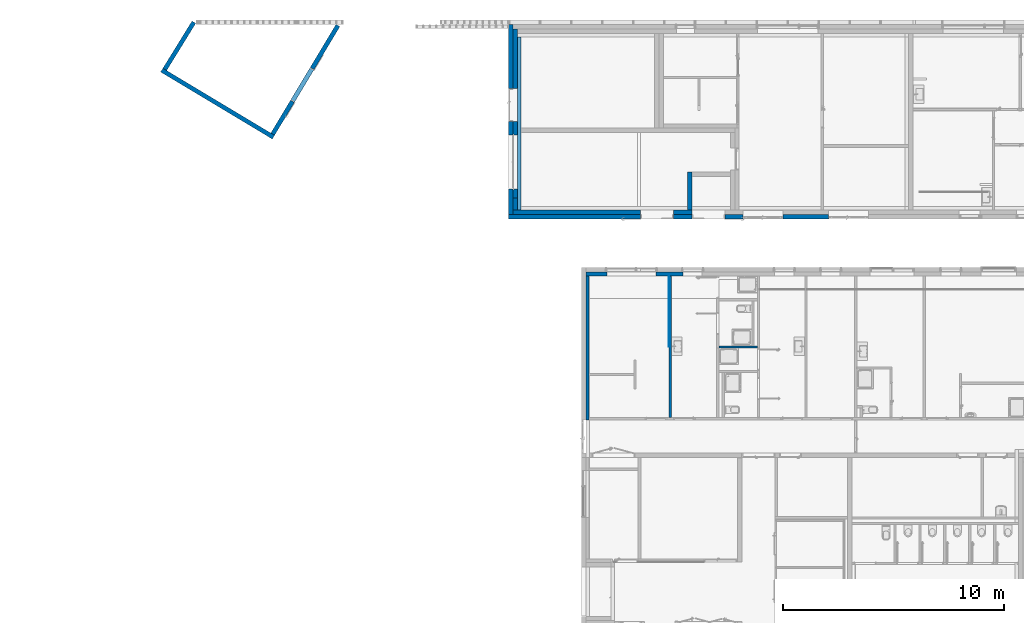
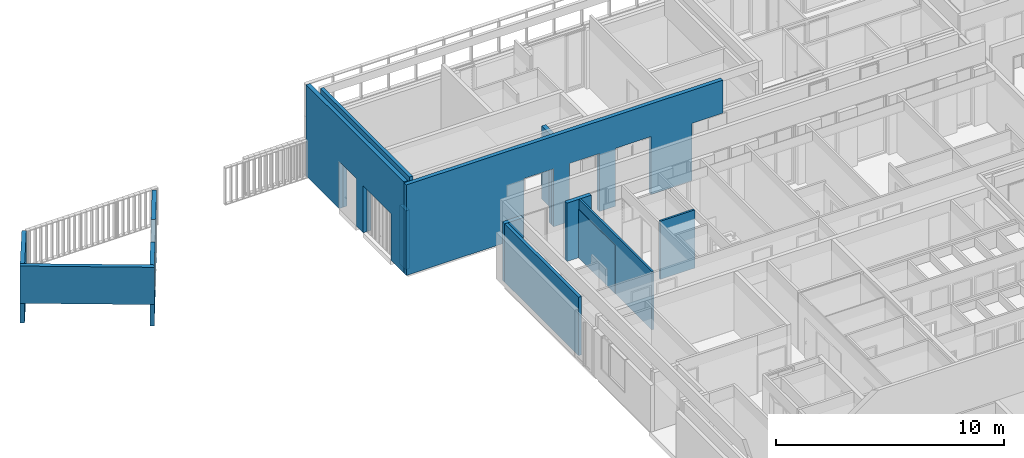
# One storey, part 110 of 240: 16 walls, 29 openings.
"""IFC2X3 building model written with IfcOpenShell, lengths in centimetres."""

from ifc_helpers import new_model, entity, si_unit, converted_unit, derived_unit, direction, frame, frame_2d, origin, origin_2d_with_axis, place, context, subcontext, project, spatial, polyline, rectangle, outline, extrude, clip, bounded_halfspace, faceted_brep, material, layer, layer_set, layer_usage, type_object, element, save


model = new_model("IFC2X3")

# Units and contexts
model_context = context("Model", 3, precision=0.001, world=origin(), true_north=direction((6.12303176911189e-17, 1.0)))
body_context = subcontext(model_context, "Body", "Model", "MODEL_VIEW")
ifc_project = project(units=[si_unit("LENGTHUNIT", "METRE", prefix="CENTI"), si_unit("AREAUNIT", "SQUARE_METRE"), si_unit("VOLUMEUNIT", "CUBIC_METRE"), converted_unit("PLANEANGLEUNIT", "DEGREE", entity("IfcRatioMeasure", 0.0174532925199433), si_unit("PLANEANGLEUNIT", "RADIAN"), dimensions=[0, 0, 0, 0, 0, 0, 0]), si_unit("MASSUNIT", "GRAM", prefix="KILO"), derived_unit("MASSDENSITYUNIT", [(si_unit("MASSUNIT", "GRAM", prefix="KILO"), 1), (si_unit("LENGTHUNIT", "METRE"), -3)]), si_unit("TIMEUNIT", "SECOND"), si_unit("FREQUENCYUNIT", "HERTZ"), si_unit("THERMODYNAMICTEMPERATUREUNIT", "DEGREE_CELSIUS"), derived_unit("THERMALTRANSMITTANCEUNIT", [(si_unit("MASSUNIT", "GRAM", prefix="KILO"), 1), (si_unit("THERMODYNAMICTEMPERATUREUNIT", "KELVIN"), -1), (si_unit("TIMEUNIT", "SECOND"), -3)]), derived_unit("VOLUMETRICFLOWRATEUNIT", [(si_unit("LENGTHUNIT", "METRE"), 3), (si_unit("TIMEUNIT", "SECOND"), -1)]), si_unit("ELECTRICCURRENTUNIT", "AMPERE"), si_unit("ELECTRICVOLTAGEUNIT", "VOLT"), si_unit("POWERUNIT", "WATT"), si_unit("FORCEUNIT", "NEWTON", prefix="KILO"), si_unit("ILLUMINANCEUNIT", "LUX"), si_unit("LUMINOUSFLUXUNIT", "LUMEN"), si_unit("LUMINOUSINTENSITYUNIT", "CANDELA"), derived_unit("USERDEFINED", [(si_unit("MASSUNIT", "GRAM", prefix="KILO"), -1), (si_unit("LENGTHUNIT", "METRE"), -2), (si_unit("TIMEUNIT", "SECOND"), 3), (si_unit("LUMINOUSFLUXUNIT", "LUMEN"), 1)]), derived_unit("LINEARVELOCITYUNIT", [(si_unit("LENGTHUNIT", "METRE"), 1), (si_unit("TIMEUNIT", "SECOND"), -1)]), si_unit("PRESSUREUNIT", "PASCAL"), derived_unit("USERDEFINED", [(si_unit("LENGTHUNIT", "METRE"), -2), (si_unit("MASSUNIT", "GRAM", prefix="KILO"), 1), (si_unit("TIMEUNIT", "SECOND"), -2)])], contexts=[model_context])

# Site, building, storey
site_placement = place(None, frame((-2781.94577612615, 7442.24238424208, 0.0)))
site = spatial("IfcSite", under=ifc_project, at=site_placement, Name="Default", CompositionType="ELEMENT")
building_placement = place(site_placement, origin())
building = spatial("IfcBuilding", under=site, at=building_placement, CompositionType="ELEMENT")
storey_placement = place(building_placement, origin())
storey = spatial("IfcBuildingStorey", under=building, at=storey_placement, Name="N00 - COO", CompositionType="ELEMENT", Elevation=0.0)

# Wall, openings
ifc_material_1 = material(Name="Aluminium bardage")
ifc_layer_1 = layer(ifc_material_1, 0.5)
ifc_material_2 = material(Name="01 - Lame d'air")
ifc_layer_2 = layer(ifc_material_2, 1.5)
ifc_material_3 = material(Name="00 - Isolant")
ifc_layer_3 = layer(ifc_material_3, 18.0)
ifc_layer_set_1 = layer_set([ifc_layer_1, ifc_layer_2, ifc_layer_3], Name="Mur de base:04 - Parement - ITE 18cm + vide 2cm")
ifc_layer_usage_1 = layer_usage(ifc_layer_set_1, "AXIS2", "POSITIVE", -10.0)
wall_type_1 = type_object("IfcWallType", Name="Mur de base:04 - Parement - ITE 18cm + vide 2cm", PredefinedType="STANDARD", material=ifc_layer_set_1)
wall_1_placement = place(building_placement, frame((-11230.6616968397, -840.048500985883, 0.0)))
wall_1 = element("IfcWallStandardCase", 1, at=wall_1_placement, inside=storey, type_object=wall_type_1, material=ifc_layer_usage_1, Name="Mur de base:04 - Parement - ITE 18cm + vide 2cm", ObjectType="Mur de base:04 - Parement - ITE 18cm + vide 2cm", context=body_context, shape_type="SweptSolid", body=[
    extrude(rectangle(XDim=1606.16181917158, YDim=20.0, at=frame_2d((803.080909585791, 2.04281036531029e-14), x_axis=(-1.0, 0.0))), origin(), (0.0, 0.0, 1.0), 486.0),
])
opening_1_placement = place(wall_1_placement, origin())
element("IfcOpeningElement", 2, at=opening_1_placement, cuts=wall_1, Name="Mur de base:04 - Parement - ITE 18cm + vide 2cm", ObjectType="Opening", context=body_context, shape_type="SweptSolid", body=[
    extrude(rectangle(XDim=310.999999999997, YDim=99.9999999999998, at=frame_2d((-8.66862137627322e-13, 0.0), x_axis=(0.0, 1.0))), frame((2089.66181923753, -25.24, 155.499999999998), z_axis=(0.0, 1.0, 0.0), x_axis=(-1.0, 0.0, 0.0)), (0.0, 0.0, 1.0), 50.48),
])
opening_2_placement = place(wall_1_placement, origin())
element("IfcOpeningElement", 3, at=opening_2_placement, cuts=wall_1, Name="Mur de base:04 - Parement - ITE 18cm + vide 2cm", ObjectType="Opening", context=body_context, shape_type="SweptSolid", body=[
    extrude(rectangle(XDim=224.0, YDim=91.9999999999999, at=frame_2d((2.1316282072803e-14, 0.0), x_axis=(1.0, 0.0))), frame((2591.66181917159, -142.4, 197.700000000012), z_axis=(0.0, 1.0, 0.0), x_axis=(0.0, 0.0, 1.0)), (0.0, 0.0, 1.0), 304.8),
])
opening_3_placement = place(wall_1_placement, origin())
element("IfcOpeningElement", 4, at=opening_3_placement, cuts=wall_1, Name="Mur de base:04 - Parement - ITE 18cm + vide 2cm", ObjectType="Opening", context=body_context, shape_type="SweptSolid", body=[
    extrude(rectangle(XDim=316.500000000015, YDim=99.9999999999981, at=frame_2d((0.0, 0.0), x_axis=(0.0, 1.0))), frame((2591.7151206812, -25.2399999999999, 158.250000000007), z_axis=(0.0, 1.0, 0.0), x_axis=(-1.0, 0.0, 0.0)), (0.0, 0.0, 1.0), 50.48),
])
opening_4_placement = place(wall_1_placement, origin())
element("IfcOpeningElement", 5, at=opening_4_placement, cuts=wall_1, Name="Mur de base:04 - Parement - ITE 18cm + vide 2cm", ObjectType="Opening", context=body_context, shape_type="SweptSolid", body=[
    extrude(rectangle(XDim=310.999999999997, YDim=99.9999999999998, at=frame_2d((-8.66862137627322e-13, 0.0), x_axis=(0.0, 1.0))), frame((2348.66181917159, -25.2400000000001, 155.499999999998), z_axis=(0.0, 1.0, 0.0), x_axis=(-1.0, 0.0, 0.0)), (0.0, 0.0, 1.0), 50.48),
])
opening_5_placement = place(wall_1_placement, origin())
element("IfcOpeningElement", 6, at=opening_5_placement, cuts=wall_1, Name="Mur de base:04 - Parement - ITE 18cm + vide 2cm", ObjectType="Opening", context=body_context, shape_type="SweptSolid", body=[
    extrude(rectangle(XDim=224.0, YDim=91.9999999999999, at=frame_2d((-7.105427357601e-15, 0.0), x_axis=(1.0, 0.0))), frame((2348.60851766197, -142.4, 192.0), z_axis=(0.0, 1.0, 0.0), x_axis=(0.0, 0.0, 1.0)), (0.0, 0.0, 1.0), 304.8),
])
opening_6_placement = place(wall_1_placement, origin())
element("IfcOpeningElement", 7, at=opening_6_placement, cuts=wall_1, Name="Mur de base:04 - Parement - ITE 18cm + vide 2cm", ObjectType="Opening", context=body_context, shape_type="SweptSolid", body=[
    extrude(rectangle(XDim=224.0, YDim=91.9999999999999, at=frame_2d((-7.105427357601e-15, 0.0), x_axis=(1.0, 0.0))), frame((2089.60851772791, -142.4, 192.0), z_axis=(0.0, 1.0, 0.0), x_axis=(0.0, 0.0, 1.0)), (0.0, 0.0, 1.0), 304.8),
])
opening_7_placement = place(wall_1_placement, frame((747.161819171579, 10.0, 0.0)))
element("IfcOpeningElement", 8, at=opening_7_placement, cuts=wall_1, Name="Int. Tierce:PP (1.80m x 3.11m):1", ObjectType="Opening", context=body_context, shape_type="SweptSolid", body=[
    extrude(rectangle(XDim=311.000000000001, YDim=151.0, at=frame_2d((155.500000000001, 75.5000000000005), x_axis=(1.0, 0.0))), frame((0.0, 0.0, 0.0), z_axis=(0.0, -1.0, 0.0), x_axis=(0.0, 0.0, 1.0)), (0.0, 0.0, 1.0), 20.0),
])
opening_8_placement = place(wall_1_placement, frame((11230.6616968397, 840.048500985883, 0.0)))
element("IfcOpeningElement", 9, at=opening_8_placement, cuts=wall_1, Name="Mur de base:04 - Parement - ITE 18cm + vide 2cm", ObjectType="Opening", context=body_context, shape_type="SweptSolid", body=[
    extrude(rectangle(XDim=326.0, YDim=179.999999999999, at=frame_2d((0.0, 8.66862137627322e-13), x_axis=(1.0, 0.0))), frame((-10078.6616968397, -850.148500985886, 148.0), z_axis=(0.0, 1.0, 0.0), x_axis=(0.0, 0.0, -1.0)), (0.0, 0.0, 1.0), 61.3),
])
opening_9_placement = place(wall_1_placement, frame((1448.16181917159, -10.1000000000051, -15.0)))
element("IfcOpeningElement", 10, at=opening_9_placement, cuts=wall_1, Name="Mur de base:04 - Parement - ITE 18cm + vide 2cm", ObjectType="Opening", context=body_context, shape_type="Brep", body=[
    faceted_brep([(178.0, 0.0, 324.0), (2.0, 0.0, 324.0), (2.0, 0.0, 0.0), (178.0, 0.0, 0.0), (178.0, 1.2999999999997, 0.0), (178.0, 1.29999999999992, 324.0), (2.0, 1.30000000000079, 0.0), (0.0, 1.30000000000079, 0.0), (0.0, 61.3000000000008, 0.0), (180.0, 61.2999999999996, 0.0), (180.0, 1.2999999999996, 0.0), (2.0, 1.30000000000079, 324.0), (0.0, 61.3000000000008, 326.0), (180.0, 61.2999999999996, 326.0), (0.0, 1.30000000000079, 326.0), (180.0, 1.2999999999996, 326.0)], [[[0, 1, 2, 3]], [[3, 4, 5, 0]], [[2, 6, 7, 8, 9, 10, 4, 3]], [[1, 11, 6, 2]], [[0, 5, 11, 1]], [[12, 13, 9, 8]], [[14, 7, 6, 11, 5, 4, 10, 15]], [[8, 7, 14, 12]], [[13, 15, 10, 9]], [[12, 14, 15, 13]]]),
])
opening_10_placement = place(wall_1_placement, frame((980.080909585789, 10.0, 0.0)))
element("IfcOpeningElement", 11, at=opening_10_placement, cuts=wall_1, Name="Int. Tierce:PP (1.80m x 3.11m):1", ObjectType="Opening", context=body_context, shape_type="SweptSolid", body=[
    extrude(rectangle(XDim=311.000000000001, YDim=151.0, at=frame_2d((155.500000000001, 75.4999999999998), x_axis=(1.0, 0.0))), frame((0.0, 0.0, 0.0), z_axis=(0.0, -1.0, 0.0), x_axis=(0.0, 0.0, 1.0)), (0.0, 0.0, 1.0), 20.0),
])

ifc_layer_usage_2 = layer_usage(ifc_layer_set_1, "AXIS2", "NEGATIVE", 10.0)
wall_2_placement = place(building_placement, frame((-11220.6616968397, -830.048500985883, 0.0), z_axis=(0.0, 0.0, 1.0), x_axis=(0.0, 1.0, 0.0)))
wall_2 = element("IfcWallStandardCase", 12, at=wall_2_placement, inside=storey, type_object=wall_type_1, material=ifc_layer_usage_2, Name="Mur de base:04 - Parement - ITE 18cm + vide 2cm", ObjectType="Mur de base:04 - Parement - ITE 18cm + vide 2cm", context=body_context, shape_type="SweptSolid", body=[
    extrude(rectangle(XDim=860.04850098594, YDim=19.9999999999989, at=frame_2d((430.02425049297, 3.99680288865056e-14), x_axis=(-1.0, 0.0))), origin(), (0.0, 0.0, 1.0), 490.0),
])
opening_11_placement = place(wall_2_placement, frame((830.048500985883, -11220.6616968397, 0.0), z_axis=(0.0, 0.0, 1.0), x_axis=(0.0, -1.0, 0.0)))
element("IfcOpeningElement", 13, at=opening_11_placement, cuts=wall_2, Name="Mur de base:04 - Parement - ITE 18cm + vide 2cm", ObjectType="Opening", context=body_context, shape_type="SweptSolid", body=[
    extrude(rectangle(XDim=251.500000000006, YDim=242.999999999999, at=frame_2d((0.0, -7.8159700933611e-14), x_axis=(1.0, 0.0))), frame((-11180.6616968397, -593.0, 125.750000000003), z_axis=(-1.0, 0.0, 0.0), x_axis=(0.0, 0.0, -1.0)), (0.0, 0.0, 1.0), 80.0000000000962),
])
opening_12_placement = place(wall_2_placement, frame((420.024250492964, -10.0, 0.0)))
element("IfcOpeningElement", 14, at=opening_12_placement, cuts=wall_2, Name="Int. Tierce:PP  chaufferie (1.80m x 2.50m):1", ObjectType="Opening", context=body_context, shape_type="SweptSolid", body=[
    extrude(rectangle(XDim=253.500000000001, YDim=151.0, at=frame_2d((126.750000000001, 75.4999999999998), x_axis=(1.0, 0.0))), frame((0.0, 0.0, 0.0), z_axis=(0.0, 1.0, 0.0), x_axis=(0.0, 0.0, 1.0)), (0.0, 0.0, 1.0), 20.0),
])

ifc_layer_4 = layer(ifc_material_3, 14.0)
ifc_material_4 = material(Name="01 - Enduit/Plâtre")
ifc_layer_5 = layer(ifc_material_4, 1.3)
ifc_layer_set_2 = layer_set([ifc_layer_4, ifc_layer_5], Name="Mur de base:04 - Parement -  isolant 14 cm + BA13")
ifc_layer_usage_3 = layer_usage(ifc_layer_set_2, "AXIS2", "NEGATIVE", 7.65)
wall_type_2 = type_object("IfcWallType", Name="Mur de base:04 - Parement -  isolant 14 cm + BA13", PredefinedType="STANDARD", material=ifc_layer_set_2)
wall_3_placement = place(building_placement, frame((-10873.9630476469, -1760.0, 0.0), z_axis=(0.0, 0.0, 1.0), x_axis=(0.0, 1.0, 0.0)))
wall_3 = element("IfcWallStandardCase", 15, at=wall_3_placement, inside=storey, type_object=wall_type_2, material=ifc_layer_usage_3, Name="Mur de base:04 - Parement -  isolant 14 cm + BA13", ObjectType="Mur de base:04 - Parement -  isolant 14 cm + BA13", context=body_context, shape_type="SweptSolid", body=[
    extrude(rectangle(XDim=650.000000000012, YDim=15.3000000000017, at=frame_2d((325.000000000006, -4.44089209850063e-13), x_axis=(-1.0, 0.0))), origin(), (0.0, 0.0, 1.0), 313.0),
])
opening_13_placement = place(wall_3_placement, origin())
element("IfcOpeningElement", 16, at=opening_13_placement, cuts=wall_3, Name="Mur de base:04 - Parement -  isolant 14 cm + BA13", ObjectType="Opening", context=body_context, shape_type="SweptSolid", body=[
    extrude(rectangle(XDim=265.0, YDim=149.999999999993, at=origin_2d_with_axis()), frame((-75.0395168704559, -33.5499999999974, 117.5), z_axis=(0.0, 1.0, 0.0), x_axis=(0.0, 0.0, -1.0)), (0.0, 0.0, 1.0), 61.2999999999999),
])
opening_14_placement = place(wall_3_placement, origin())
element("IfcOpeningElement", 17, at=opening_14_placement, cuts=wall_3, Name="Mur de base:04 - Parement -  isolant 14 cm + BA13", ObjectType="Opening", context=body_context, shape_type="SweptSolid", body=[
    extrude(rectangle(XDim=175.0, YDim=144.0, at=frame_2d((0.0, 0.0), x_axis=(0.0, 1.0))), frame((-370.079033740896, -22.8900000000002, 162.5), z_axis=(0.0, 1.0, 0.0), x_axis=(-1.0, 0.0, 0.0)), (0.0, 0.0, 1.0), 45.78),
])
opening_15_placement = place(wall_3_placement, origin())
element("IfcOpeningElement", 18, at=opening_15_placement, cuts=wall_3, Name="Mur de base:04 - Parement -  isolant 14 cm + BA13", ObjectType="Opening", context=body_context, shape_type="SweptSolid", body=[
    extrude(rectangle(XDim=250.000000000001, YDim=99.9999999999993, at=frame_2d((0.0, 2.16715534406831e-13), x_axis=(1.0, 0.0))), frame((-1444.27157988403, -124.750000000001, 125.0), z_axis=(0.0, 1.0, 0.0), x_axis=(0.0, 0.0, 1.0)), (0.0, 0.0, 1.0), 304.8),
])
opening_16_placement = place(wall_3_placement, origin())
element("IfcOpeningElement", 19, at=opening_16_placement, cuts=wall_3, Name="Mur de base:04 - Parement -  isolant 14 cm + BA13", ObjectType="Opening", context=body_context, shape_type="SweptSolid", body=[
    extrude(rectangle(XDim=175.0, YDim=68.0000000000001, at=frame_2d((0.0, 0.0), x_axis=(0.0, 1.0))), frame((-264.079033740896, -144.749999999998, 162.5), z_axis=(0.0, 1.0, 0.0), x_axis=(-1.0, 0.0, 0.0)), (0.0, 0.0, 1.0), 304.8),
])

ifc_material_5 = material(Name="01 - Maçonnerie")
ifc_layer_6 = layer(ifc_material_5, 20.0)
ifc_layer_set_3 = layer_set([ifc_layer_6], Name="Mur de base:04 - Structure - béton - 20cm")
ifc_layer_usage_4 = layer_usage(ifc_layer_set_3, "AXIS2", "NEGATIVE", 10.0)
wall_type_3 = type_object("IfcWallType", Name="Mur de base:04 - Structure - béton - 20cm", PredefinedType="STANDARD", material=ifc_layer_set_3)
wall_4_placement = place(building_placement, frame((-11200.6616968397, 10.0, 0.0), z_axis=(0.0, 0.0, 1.0), x_axis=(0.0, -1.0, 0.0)))
wall_4 = element("IfcWallStandardCase", 20, at=wall_4_placement, inside=storey, type_object=wall_type_3, material=ifc_layer_usage_4, Name="Mur de base:04 - Structure - béton - 20cm", ObjectType="Mur de base:04 - Structure - béton - 20cm", context=body_context, shape_type="SweptSolid", body=[
    extrude(rectangle(XDim=766.524250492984, YDim=19.9999999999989, at=frame_2d((383.262125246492, 0.0), x_axis=(-1.0, 0.0))), origin(), (0.0, 0.0, 1.0), 315.000000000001),
])
opening_17_placement = place(wall_4_placement, origin())
element("IfcOpeningElement", 21, at=opening_17_placement, cuts=wall_4, Name="Mur de base:04 - Structure - béton - 20cm", ObjectType="Opening", context=body_context, shape_type="SweptSolid", body=[
    extrude(rectangle(XDim=251.500000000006, YDim=242.999999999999, at=frame_2d((0.0, -2.1316282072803e-14), x_axis=(1.0, 0.0))), frame((603.0, -60.0, 125.750000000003), z_axis=(0.0, 1.0, 0.0), x_axis=(0.0, 0.0, -1.0)), (0.0, 0.0, 1.0), 80.0000000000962),
])
opening_18_placement = place(wall_4_placement, origin())
element("IfcOpeningElement", 22, at=opening_18_placement, cuts=wall_4, Name="Mur de base:04 - Structure - béton - 20cm", ObjectType="Opening", context=body_context, shape_type="SweptSolid", body=[
    extrude(rectangle(XDim=253.500000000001, YDim=151.0, at=origin_2d_with_axis()), frame((344.52425049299, -182.4, 126.750000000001), z_axis=(0.0, 1.0, 0.0), x_axis=(0.0, 0.0, 1.0)), (0.0, 0.0, 1.0), 304.8),
])

# Wall
ifc_layer_usage_5 = layer_usage(ifc_layer_set_3, "AXIS2", "NEGATIVE", 10.0)
wall_5_placement = place(building_placement, frame((-10441.4998776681, -1100.0, 0.0), z_axis=(0.0, 0.0, 1.0), x_axis=(-1.0, 0.0, 0.0)))
element("IfcWallStandardCase", 23, at=wall_5_placement, inside=storey, type_object=wall_type_3, material=ifc_layer_usage_5, Name="Mur de base:04 - Structure - béton - 20cm", ObjectType="Mur de base:04 - Structure - béton - 20cm", context=body_context, shape_type="SweptSolid", body=[
    extrude(rectangle(XDim=123.000000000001, YDim=19.9999999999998, at=frame_2d((61.5000000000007, 0.0), x_axis=(-1.0, 0.0))), origin(), (0.0, 0.0, 1.0), 313.0),
])

# Wall, openings
ifc_layer_usage_6 = layer_usage(ifc_layer_set_3, "AXIS2", "NEGATIVE", 10.0)
wall_6_placement = place(building_placement, frame((-11210.6616968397, -820.048500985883, 0.0)))
wall_6 = element("IfcWallStandardCase", 24, at=wall_6_placement, inside=storey, type_object=wall_type_3, material=ifc_layer_usage_6, Name="Mur de base:04 - Structure - béton - 20cm", ObjectType="Mur de base:04 - Structure - béton - 20cm", context=body_context, shape_type="SweptSolid", body=[
    extrude(rectangle(XDim=809.080909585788, YDim=20.0, at=frame_2d((404.540454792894, 2.66453525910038e-14), x_axis=(-1.0, 0.0))), origin(), (0.0, 0.0, 1.0), 310.999999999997),
])
opening_19_placement = place(wall_6_placement, origin())
element("IfcOpeningElement", 25, at=opening_19_placement, cuts=wall_6, Name="Mur de base:04 - Structure - béton - 20cm", ObjectType="Opening", context=body_context, shape_type="SweptSolid", body=[
    extrude(rectangle(XDim=311.000000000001, YDim=151.0, at=frame_2d((0.0, 0.0), x_axis=(0.0, 1.0))), frame((651.661819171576, -182.4, 155.500000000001), z_axis=(0.0, 1.0, 0.0), x_axis=(-1.0, 0.0, 0.0)), (0.0, 0.0, 1.0), 304.8),
])
opening_20_placement = place(wall_6_placement, origin())
element("IfcOpeningElement", 26, at=opening_20_placement, cuts=wall_6, Name="Mur de base:04 - Structure - béton - 20cm", ObjectType="Opening", context=body_context, shape_type="SweptSolid", body=[
    extrude(rectangle(XDim=326.0, YDim=179.999999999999, at=frame_2d((0.0, 8.66862137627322e-13), x_axis=(1.0, 0.0))), frame((1132.0, -30.0999999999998, 148.0), z_axis=(0.0, 1.0, 0.0), x_axis=(0.0, 0.0, -1.0)), (0.0, 0.0, 1.0), 61.3),
])
opening_21_placement = place(wall_6_placement, frame((1428.16181917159, -30.1000000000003, -15.0)))
element("IfcOpeningElement", 27, at=opening_21_placement, cuts=wall_6, Name="Mur de base:04 - Structure - béton - 20cm", ObjectType="Opening", context=body_context, shape_type="Brep", body=[
    faceted_brep([(178.0, 0.0, 324.0), (2.0, 0.0, 324.0), (2.0, 0.0, 0.0), (178.0, 0.0, 0.0), (178.0, 1.30000000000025, 0.0), (178.0, 1.30000000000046, 324.0), (2.0, 1.30000000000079, 0.0), (0.0, 1.30000000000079, 0.0), (0.0, 61.3000000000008, 0.0), (180.0, 61.3000000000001, 0.0), (180.0, 1.30000000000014, 0.0), (2.0, 1.30000000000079, 324.0), (0.0, 61.3000000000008, 326.0), (180.0, 61.3000000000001, 326.0), (0.0, 1.30000000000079, 326.0), (180.0, 1.30000000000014, 326.0)], [[[0, 1, 2, 3]], [[3, 4, 5, 0]], [[2, 6, 7, 8, 9, 10, 4, 3]], [[1, 11, 6, 2]], [[0, 5, 11, 1]], [[12, 13, 9, 8]], [[14, 7, 6, 11, 5, 4, 10, 15]], [[8, 7, 14, 12]], [[13, 15, 10, 9]], [[12, 14, 15, 13]]]),
])
opening_22_placement = place(wall_6_placement, origin())
element("IfcOpeningElement", 28, at=opening_22_placement, cuts=wall_6, Name="Mur de base:04 - Structure - béton - 20cm", ObjectType="Opening", context=body_context, shape_type="SweptSolid", body=[
    extrude(rectangle(XDim=310.999999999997, YDim=99.9999999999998, at=frame_2d((-8.66862137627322e-13, 0.0), x_axis=(0.0, 1.0))), frame((2069.66181923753, -25.24, 155.499999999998), z_axis=(0.0, 1.0, 0.0), x_axis=(-1.0, 0.0, 0.0)), (0.0, 0.0, 1.0), 50.48),
])
opening_23_placement = place(wall_6_placement, origin())
element("IfcOpeningElement", 29, at=opening_23_placement, cuts=wall_6, Name="Mur de base:04 - Structure - béton - 20cm", ObjectType="Opening", context=body_context, shape_type="SweptSolid", body=[
    extrude(rectangle(XDim=224.0, YDim=91.9999999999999, at=frame_2d((2.1316282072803e-14, 0.0), x_axis=(1.0, 0.0))), frame((2571.66181917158, -162.4, 197.700000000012), z_axis=(0.0, 1.0, 0.0), x_axis=(0.0, 0.0, 1.0)), (0.0, 0.0, 1.0), 304.8),
])
opening_24_placement = place(wall_6_placement, origin())
element("IfcOpeningElement", 30, at=opening_24_placement, cuts=wall_6, Name="Mur de base:04 - Structure - béton - 20cm", ObjectType="Opening", context=body_context, shape_type="SweptSolid", body=[
    extrude(rectangle(XDim=316.500000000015, YDim=99.9999999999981, at=frame_2d((0.0, 0.0), x_axis=(0.0, 1.0))), frame((2571.7151206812, -25.24, 158.250000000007), z_axis=(0.0, 1.0, 0.0), x_axis=(-1.0, 0.0, 0.0)), (0.0, 0.0, 1.0), 50.48),
])
opening_25_placement = place(wall_6_placement, origin())
element("IfcOpeningElement", 31, at=opening_25_placement, cuts=wall_6, Name="Mur de base:04 - Structure - béton - 20cm", ObjectType="Opening", context=body_context, shape_type="SweptSolid", body=[
    extrude(rectangle(XDim=310.999999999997, YDim=99.9999999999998, at=frame_2d((-8.66862137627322e-13, 0.0), x_axis=(0.0, 1.0))), frame((2328.66181917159, -25.2400000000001, 155.499999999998), z_axis=(0.0, 1.0, 0.0), x_axis=(-1.0, 0.0, 0.0)), (0.0, 0.0, 1.0), 50.48),
])
opening_26_placement = place(wall_6_placement, origin())
element("IfcOpeningElement", 32, at=opening_26_placement, cuts=wall_6, Name="Mur de base:04 - Structure - béton - 20cm", ObjectType="Opening", context=body_context, shape_type="SweptSolid", body=[
    extrude(rectangle(XDim=224.0, YDim=91.9999999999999, at=frame_2d((-7.105427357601e-15, 0.0), x_axis=(1.0, 0.0))), frame((2328.60851766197, -162.4, 192.0), z_axis=(0.0, 1.0, 0.0), x_axis=(0.0, 0.0, 1.0)), (0.0, 0.0, 1.0), 304.8),
])
opening_27_placement = place(wall_6_placement, origin())
element("IfcOpeningElement", 33, at=opening_27_placement, cuts=wall_6, Name="Mur de base:04 - Structure - béton - 20cm", ObjectType="Opening", context=body_context, shape_type="SweptSolid", body=[
    extrude(rectangle(XDim=224.0, YDim=91.9999999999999, at=frame_2d((-7.105427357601e-15, 0.0), x_axis=(1.0, 0.0))), frame((2069.60851772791, -162.4, 192.0), z_axis=(0.0, 1.0, 0.0), x_axis=(0.0, 0.0, 1.0)), (0.0, 0.0, 1.0), 304.8),
])
opening_28_placement = place(wall_6_placement, origin())
element("IfcOpeningElement", 34, at=opening_28_placement, cuts=wall_6, Name="Mur de base:04 - Structure - béton - 20cm", ObjectType="Opening", context=body_context, shape_type="SweptSolid", body=[
    extrude(rectangle(XDim=311.000000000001, YDim=151.0, at=origin_2d_with_axis()), frame((884.580909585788, -182.4, 155.500000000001), z_axis=(0.0, 1.0, 0.0), x_axis=(0.0, 0.0, 1.0)), (0.0, 0.0, 1.0), 304.8),
])

# Walls
ifc_layer_usage_7 = layer_usage(ifc_layer_set_3, "AXIS2", "NEGATIVE", 10.0)
wall_7_placement = place(building_placement, frame((-11200.6616968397, -810.048500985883, 0.0), z_axis=(0.0, 0.0, 1.0), x_axis=(0.0, 1.0, 0.0)))
element("IfcWallStandardCase", 35, at=wall_7_placement, inside=storey, type_object=wall_type_3, material=ifc_layer_usage_7, Name="Mur de base:04 - Structure - béton - 20cm", ObjectType="Mur de base:04 - Structure - béton - 20cm", context=body_context, shape_type="SweptSolid", body=[
    extrude(rectangle(XDim=53.52425049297, YDim=19.9999999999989, at=frame_2d((26.762125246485, 0.0), x_axis=(-1.0, 0.0))), origin(), (0.0, 0.0, 1.0), 315.0),
])
ifc_layer_usage_8 = layer_usage(ifc_layer_set_3, "AXIS2", "NEGATIVE", 10.0)
wall_8_placement = place(storey_placement, frame((-10786.6130476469, -1100.0, 0.0), z_axis=(0.0, 0.0, 1.0), x_axis=(-1.0, 0.0, 0.0)))
element("IfcWallStandardCase", 36, at=wall_8_placement, inside=storey, type_object=wall_type_3, material=ifc_layer_usage_8, Name="Mur de base:04 - Structure - béton - 20cm", ObjectType="Mur de base:04 - Structure - béton - 20cm", context=body_context, shape_type="SweptSolid", body=[
    extrude(rectangle(XDim=95.0000000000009, YDim=20.0000000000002, at=frame_2d((47.5000000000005, 7.105427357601e-15), x_axis=(-1.0, 0.0))), origin(), (0.0, 0.0, 1.0), 313.0),
])
ifc_layer_usage_9 = layer_usage(ifc_layer_set_3, "AXIS2", "NEGATIVE", 10.0)
wall_9_placement = place(building_placement, frame((-12655.9159912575, 40.0, -119.371909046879), z_axis=(0.0, 0.0, 1.0), x_axis=(-0.524822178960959, -0.851211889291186, 0.0)))
element("IfcWallStandardCase", 37, at=wall_9_placement, inside=storey, type_object=wall_type_3, material=ifc_layer_usage_9, Name="Mur de base:04 - Structure - béton - 20cm", ObjectType="Mur de base:04 - Structure - béton - 20cm", context=body_context, shape_type="SweptSolid", body=[
    extrude(outline(polyline([(251.076592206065, -10.0), (250.838747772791, 10.0), (0.0, 10.0), (0.0, -10.0), (251.076592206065, -10.0)])), origin(), (0.0, 0.0, 1.0), 319.371909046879),
])
ifc_layer_usage_10 = layer_usage(ifc_layer_set_3, "AXIS2", "NEGATIVE", 10.0)
wall_10_placement = place(building_placement, frame((-12801.5492302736, -176.922674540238, 0.0), z_axis=(0.0, 0.0, 1.0), x_axis=(0.85739256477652, -0.514662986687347, 0.0)))
element("IfcWallStandardCase", 38, at=wall_10_placement, inside=storey, type_object=wall_type_3, material=ifc_layer_usage_10, Name="Mur de base:04 - Structure - béton - 20cm", ObjectType="Mur de base:04 - Structure - béton - 20cm", context=body_context, shape_type="SweptSolid", body=[
    extrude(outline(polyline([(590.17240670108, -10.0), (590.172406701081, 10.0), (0.237844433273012, 10.0), (0.0, -10.0), (590.17240670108, -10.0)])), origin(), (0.0, 0.0, 1.0), 200.0),
])

# Wall, opening
ifc_layer_usage_11 = layer_usage(ifc_layer_set_3, "AXIS2", "NEGATIVE", 10.0)
wall_11_placement = place(building_placement, frame((-12298.9670926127, -466.942012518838, -129.389135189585), z_axis=(0.0, 0.0, 1.0), x_axis=(0.514662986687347, 0.85739256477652, 0.0)))
wall_11 = element("IfcWallStandardCase", 39, at=wall_11_placement, inside=storey, type_object=wall_type_3, material=ifc_layer_usage_11, Name="Mur de base:04 - Structure - béton - 20cm", ObjectType="Mur de base:04 - Structure - béton - 20cm", context=body_context, shape_type="SweptSolid", body=[
    extrude(rectangle(XDim=573.765195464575, YDim=19.9999999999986, at=frame_2d((286.882597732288, -1.24344978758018e-13), x_axis=(-1.0, 0.0))), origin(), (0.0, 0.0, 1.0), 329.389135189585),
])
opening_29_placement = place(wall_11_placement, frame((346.5, 10.0, 129.389135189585)))
element("IfcOpeningElement", 40, at=opening_29_placement, cuts=wall_11, Name="Int. Double:PP airel poubelle(1.66m x 2.04m):1", ObjectType="Opening", context=body_context, shape_type="SweptSolid", body=[
    extrude(rectangle(XDim=200.000000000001, YDim=173.0, at=frame_2d((100.000000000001, 86.5000000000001), x_axis=(1.0, 0.0))), frame((0.0, 0.0, 0.0), z_axis=(0.0, -1.0, 0.0), x_axis=(0.0, 0.0, 1.0)), (0.0, 0.0, 1.0), 20.0),
])

# Walls
ifc_layer_usage_12 = layer_usage(ifc_layer_set_3, "AXIS2", "NEGATIVE", 10.0)
wall_12_placement = place(building_placement, frame((-10411.5807872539, -810.048500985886, 0.0), z_axis=(0.0, 0.0, 1.0), x_axis=(0.0, 1.0, 0.0)))
element("IfcWallStandardCase", 41, at=wall_12_placement, inside=storey, type_object=wall_type_3, material=ifc_layer_usage_12, Name="Mur de base:04 - Structure - béton - 20cm", ObjectType="Mur de base:04 - Structure - béton - 20cm", context=body_context, shape_type="SweptSolid", body=[
    extrude(rectangle(XDim=171.048500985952, YDim=19.9999999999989, at=frame_2d((85.5242504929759, 0.0), x_axis=(-1.0, 0.0))), origin(), (0.0, 0.0, 1.0), 392.0),
])
ifc_layer_7 = layer(ifc_material_4, 1.3)
ifc_layer_8 = layer(ifc_material_3, 7.4)
ifc_layer_9 = layer(ifc_material_4, 1.3)
ifc_layer_set_4 = layer_set([ifc_layer_7, ifc_layer_8, ifc_layer_9], Name="Mur de base:06 - cloisons - Ba13 10cm")
ifc_layer_usage_13 = layer_usage(ifc_layer_set_4, "AXIS2", "NEGATIVE", 5.0)
wall_type_4 = type_object("IfcWallType", Name="Mur de base:06 - cloisons - Ba13 10cm", PredefinedType="STANDARD", material=ifc_layer_set_4)
wall_13_placement = place(building_placement, frame((-10499.4998776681, -1110.0, 0.0), z_axis=(0.0, 0.0, 1.0), x_axis=(0.0, -1.0, 0.0)))
element("IfcWallStandardCase", 42, at=wall_13_placement, inside=storey, type_object=wall_type_4, material=ifc_layer_usage_13, Name="Mur de base:06 - cloisons - Ba13 10cm", ObjectType="Mur de base:06 - cloisons - Ba13 10cm", context=body_context, shape_type="Clipping", body=[
    clip(extrude(rectangle(XDim=640.000000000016, YDim=10.0000000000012, at=frame_2d((320.000000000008, 0.0), x_axis=(-1.0, 0.0))), origin(), (0.0, 0.0, 1.0), 313.0), bounded_halfspace(frame((0.0, -5.0, 0.0), z_axis=(1.0, 0.0, 0.0), x_axis=(0.0, 1.0, 0.0)), True, frame((0.0, -5.0, 0.0), z_axis=(1.0, 0.0, 0.0), x_axis=(0.0, 1.0, 0.0)), polyline([(0.0, 0.0), (10.0, 0.0), (10.0, 313.0), (0.0, 313.0), (0.0, 0.0)]))),
])
ifc_layer_usage_14 = layer_usage(ifc_layer_set_4, "AXIS2", "NEGATIVE", 5.0)
wall_14_placement = place(building_placement, frame((-10279.4998776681, -1430.0, 0.0)))
element("IfcWallStandardCase", 43, at=wall_14_placement, inside=storey, type_object=wall_type_4, material=ifc_layer_usage_14, Name="Mur de base:06 - cloisons - Ba13 10cm", ObjectType="Mur de base:06 - cloisons - Ba13 10cm", context=body_context, shape_type="SweptSolid", body=[
    extrude(rectangle(XDim=175.000000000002, YDim=9.99999999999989, at=frame_2d((87.5000000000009, 7.50510764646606e-14), x_axis=(-1.0, 0.0))), origin(), (0.0, 0.0, 1.0), 313.0),
])
ifc_layer_10 = layer(ifc_material_3, 16.0)
ifc_layer_set_5 = layer_set([ifc_layer_10], Name="Mur de base:04 - retour isolation acrotère - ITE 16cm")
ifc_layer_usage_15 = layer_usage(ifc_layer_set_5, "AXIS2", "NEGATIVE", 8.0)
wall_type_5 = type_object("IfcWallType", Name="Mur de base:04 - retour isolation acrotère - ITE 16cm", PredefinedType="STANDARD", material=ifc_layer_set_5)
wall_15_placement = place(building_placement, frame((-11182.6616968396, -810.048500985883, 438.0), z_axis=(0.0, 0.0, 1.0), x_axis=(0.0, 1.0, 0.0)))
element("IfcWallStandardCase", 44, at=wall_15_placement, inside=storey, type_object=wall_type_5, material=ifc_layer_usage_15, Name="Mur de base:04 - retour isolation acrotère - ITE 16cm", ObjectType="Mur de base:04 - retour isolation acrotère - ITE 16cm", context=body_context, shape_type="SweptSolid", body=[
    extrude(rectangle(XDim=784.04850098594, YDim=15.9999999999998, at=frame_2d((392.02425049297, -1.68753899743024e-14), x_axis=(-1.0, 0.0))), origin(), (0.0, 0.0, 1.0), 52.0000000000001),
])
ifc_material_6 = material(Name="Pin")
ifc_layer_11 = layer(ifc_material_6, 2.0)
ifc_layer_set_6 = layer_set([ifc_layer_11], Name="Mur de base:06 - habillage bois collée 2cm")
ifc_layer_usage_16 = layer_usage(ifc_layer_set_6, "AXIS2", "NEGATIVE", 1.0)
wall_type_6 = type_object("IfcWallType", Name="Mur de base:06 - habillage bois collée 2cm", PredefinedType="STANDARD", material=ifc_layer_set_6)
wall_16_placement = place(building_placement, frame((-10505.4998776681, -1110.0, 0.0), z_axis=(0.0, 0.0, 1.0), x_axis=(0.0, -1.0, 0.0)))
element("IfcWallStandardCase", 45, at=wall_16_placement, inside=storey, type_object=wall_type_6, material=ifc_layer_usage_16, Name="Mur de base:06 - habillage bois collée 2cm", ObjectType="Mur de base:06 - habillage bois collée 2cm", context=body_context, shape_type="SweptSolid", body=[
    extrude(rectangle(XDim=320.000000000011, YDim=1.99999999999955, at=frame_2d((160.000000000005, 0.0), x_axis=(-1.0, 0.0))), origin(), (0.0, 0.0, 1.0), 260.0),
])

save(model, "model.ifc")
